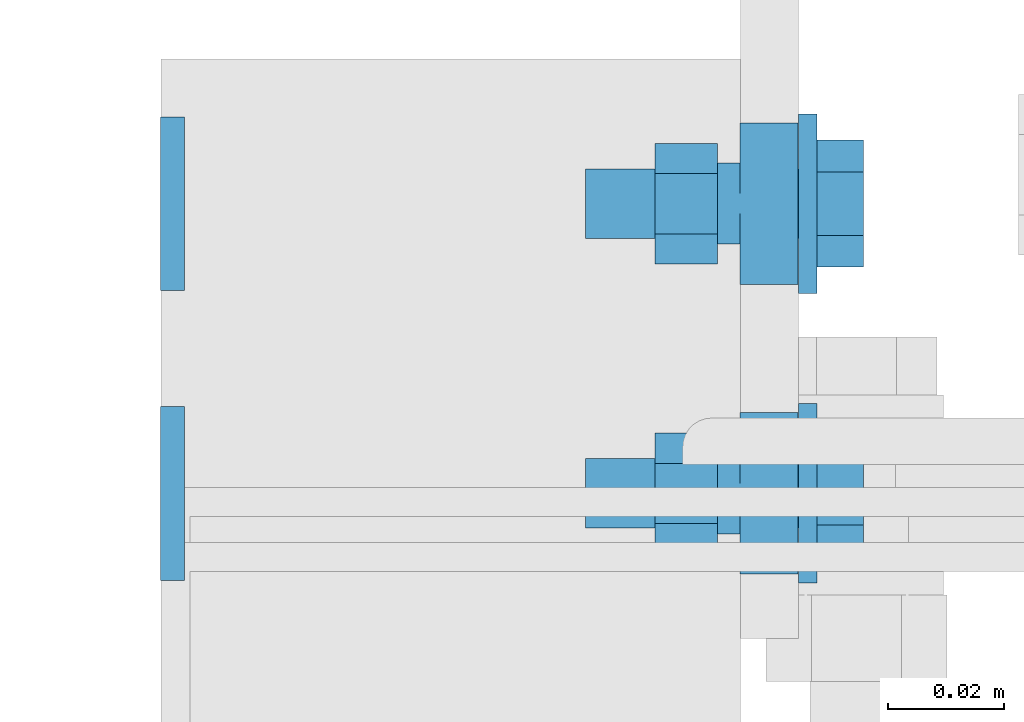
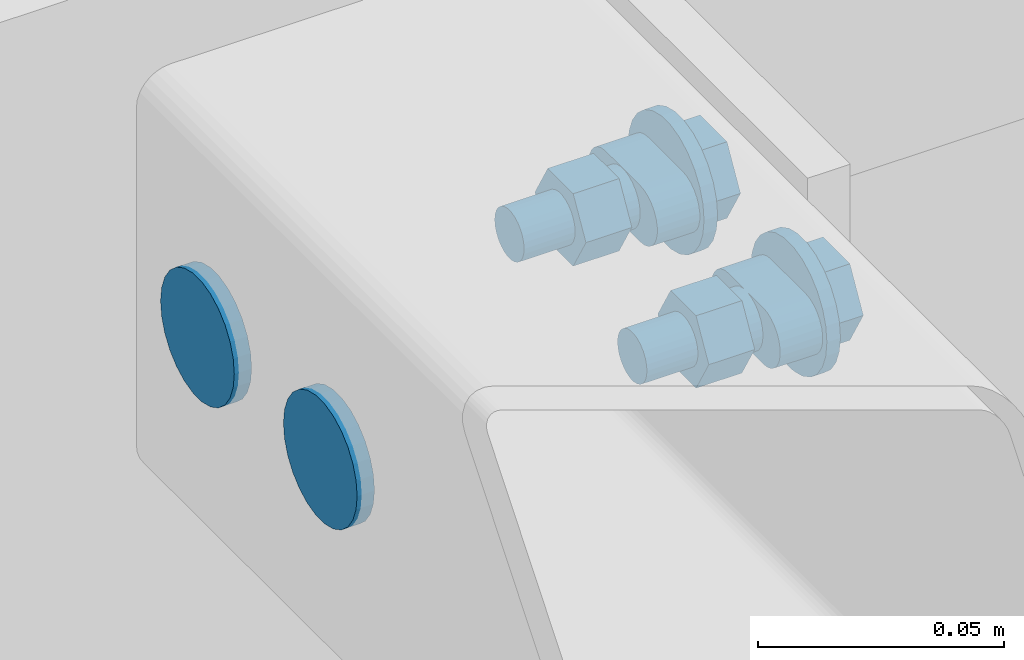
# One storey, part 102 of 123: 2 mechanical fasteners, 2 elements without a shape of their own.
"""IFC2X3 building model written with IfcOpenShell, lengths in millimetres."""

from ifc_helpers import new_model, si_unit, frame, frame_2d, origin_with_axes, origin_2d_with_axis, place, context, subcontext, project, spatial, polyline, circle_curve, parameter, trimmed, segment, composite_curve, circle, outline, extrude, source, transform, mapped, material, type_object, element, aggregate, save


model = new_model("IFC2X3")

# Units and contexts
model_context = context("Model", 3, precision=1e-05, world=origin_with_axes())
body_context = subcontext(model_context, "Body", "Model", "MODEL_VIEW")
ifc_project = project(units=[si_unit("LENGTHUNIT", "METRE", prefix="MILLI"), si_unit("AREAUNIT", "SQUARE_METRE"), si_unit("VOLUMEUNIT", "CUBIC_METRE"), si_unit("MASSUNIT", "GRAM", prefix="KILO"), si_unit("TIMEUNIT", "SECOND"), si_unit("PLANEANGLEUNIT", "RADIAN"), si_unit("SOLIDANGLEUNIT", "STERADIAN"), si_unit("THERMODYNAMICTEMPERATUREUNIT", "DEGREE_CELSIUS"), si_unit("LUMINOUSINTENSITYUNIT", "LUMEN")], contexts=[model_context])

# Site, building, storey
site_placement = place(None, origin_with_axes())
site = spatial("IfcSite", under=ifc_project, at=site_placement, Name="Undefined", CompositionType="ELEMENT")
building_placement = place(site_placement, origin_with_axes())
building = spatial("IfcBuilding", under=site, at=building_placement, Name="Undefined", CompositionType="ELEMENT")
storey_placement = place(building_placement, origin_with_axes())
storey = spatial("IfcBuildingStorey", under=building, at=storey_placement, Name="Undefined", CompositionType="ELEMENT", Elevation=0.0)

# Assembly, mechanical fastener
assembly_1_placement = place(storey_placement, origin_with_axes())
assembly_1 = element("IfcElementAssembly", 1, at=assembly_1_placement, inside=storey, Name="Steel Assembly", AssemblyPlace="NOTDEFINED", PredefinedType="RIGID_FRAME")
ifc_material_1 = material(Name="8.8-SB-Z")
discrete_accessory_type = type_object("IfcDiscreteAccessoryType", Name="Bolt assembly")
shared_shape_1 = source(origin_with_axes(), body_context, "Body", "SweptSolid", [
    extrude(circle(Radius=7.0, at=origin_2d_with_axis()), frame((0.0, -0.100000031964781, 0.0), z_axis=(0.0, 1.0, 0.0), x_axis=(1.0, 0.0, 0.0)), (0.0, 0.0, 1.0), 4.1),
    extrude(outline(composite_curve([segment(polyline([(-7.0, 7.0), (7.0, 7.0)]), True, "CONTINUOUS"), segment(trimmed(circle_curve(frame_2d((7.0, 0.0), x_axis=(0.0, 1.0)), 7.0), [parameter(0.0)], [parameter(3.14159265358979)], False, "PARAMETER"), True, "CONTINUOUS"), segment(polyline([(7.0, -7.0), (-7.0, -7.0)]), True, "CONTINUOUS"), segment(trimmed(circle_curve(frame_2d((-7.0, 0.0), x_axis=(0.0, -1.0)), 7.0), [parameter(0.0)], [parameter(3.14159265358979)], False, "PARAMETER"), True, "DISCONTINUOUS")], self_intersect=False)), frame((0.0, -9.9, 0.0), z_axis=(0.0, 1.0, 0.0), x_axis=(1.0, 0.0, 0.0)), (0.0, 0.0, 1.0), 10.0),
    extrude(outline(polyline([(10.96965511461, 0.0), (5.484827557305, 9.50000000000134), (-5.484827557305, 9.50000000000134), (-10.96965511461, 0.0), (-5.484827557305, -9.50000000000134), (5.484827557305, -9.50000000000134), (10.96965511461, 0.0)])), frame((0.0, -21.2000007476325, 0.0), z_axis=(0.0, 1.0, 0.0), x_axis=(1.0, 0.0, 0.0)), (0.0, 0.0, 1.0), 8.0),
    extrude(circle(Radius=6.0, at=origin_2d_with_axis()), frame((0.0, -13.2000000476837, 0.0), z_axis=(0.0, 1.0, 0.0), x_axis=(1.0, 0.0, 0.0)), (0.0, 0.0, 1.0), 40.0),
    extrude(circle(Radius=15.5, at=origin_2d_with_axis()), frame((0.0, -13.2000000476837, 0.0), z_axis=(0.0, 1.0, 0.0), x_axis=(1.0, 0.0, 0.0)), (0.0, 0.0, 1.0), 3.2),
    extrude(outline(polyline([(10.39230484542, 0.0), (5.19615242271, 9.00000000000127), (-5.19615242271, 9.00000000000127), (-10.39230484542, 0.0), (-5.19615242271, -9.00000000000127), (5.19615242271, -9.00000000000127), (10.39230484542, 0.0)])), frame((0.0, 3.99999977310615, 0.0), z_axis=(0.0, 1.0, 0.0), x_axis=(1.0, 0.0, 0.0)), (0.0, 0.0, 1.0), 10.8),
])
mechanical_fastener_1_placement = place(assembly_1_placement, frame((-80.0, 15285.0, 8500.0), z_axis=(0.0, 0.0, 1.0), x_axis=(0.0, 1.0, 0.0)))
mechanical_fastener_1 = element("IfcMechanicalFastener", 2, at=mechanical_fastener_1_placement, type_object=discrete_accessory_type, material=ifc_material_1, Name="Bolt assembly", NominalDiameter=12.0, NominalLength=40.0, context=body_context, shape_type="MappedRepresentation", body=[
    mapped(shared_shape_1, transform((0.0, 0.0, 0.0))),
    mapped(shared_shape_1, transform((50.0, 0.0, 0.0))),
])
aggregate(assembly_1, [mechanical_fastener_1])

assembly_2_placement = place(storey_placement, origin_with_axes())
assembly_2 = element("IfcElementAssembly", 3, at=assembly_2_placement, inside=storey, Name="Steel Assembly", AssemblyPlace="NOTDEFINED", PredefinedType="RIGID_FRAME")
ifc_material_2 = material(Name="6.8")
shared_shape_2 = source(origin_with_axes(), body_context, "Body", "SweptSolid", [
    extrude(circle(Radius=15.0, at=origin_2d_with_axis()), frame((0.0, -4.00000022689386, 0.0), z_axis=(0.0, 1.0, 0.0), x_axis=(1.0, 0.0, 0.0)), (0.0, 0.0, 1.0), 4.1),
])
mechanical_fastener_2_placement = place(assembly_2_placement, frame((-180.0, 15285.0, 8500.0), z_axis=(0.0, 0.0, 1.0), x_axis=(0.0, 1.0, 0.0)))
mechanical_fastener_2 = element("IfcMechanicalFastener", 4, at=mechanical_fastener_2_placement, type_object=discrete_accessory_type, material=ifc_material_2, Name="Bolt assembly", NominalDiameter=30.0, NominalLength=4.0, context=body_context, shape_type="MappedRepresentation", body=[
    mapped(shared_shape_2, transform((0.0, 0.0, 0.0))),
    mapped(shared_shape_2, transform((50.0, 0.0, 0.0))),
])
aggregate(assembly_2, [mechanical_fastener_2])

save(model, "model.ifc")
